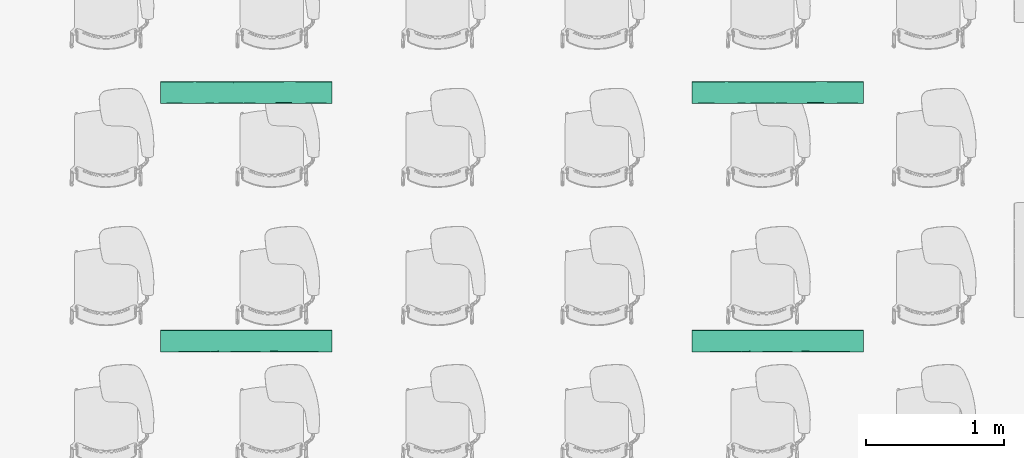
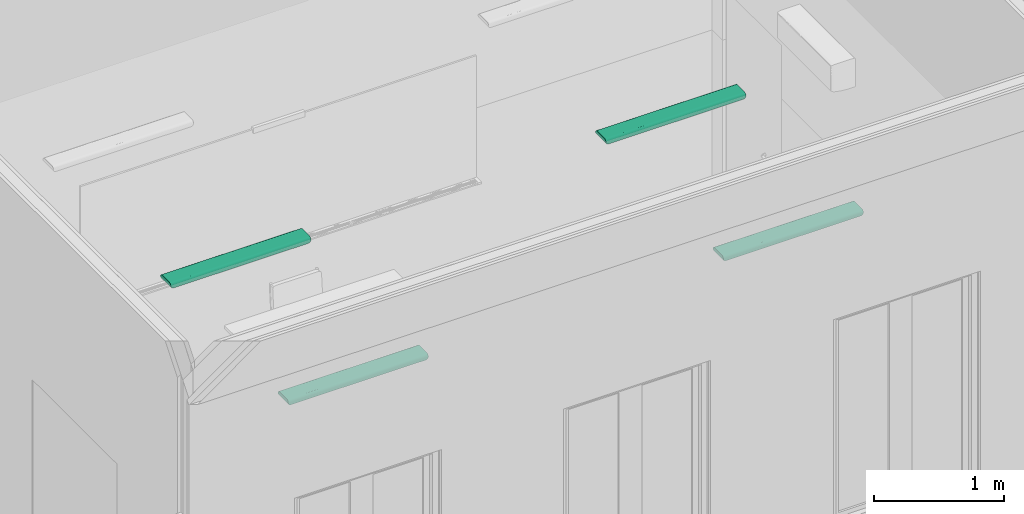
# One storey, part 51 of 155: 4 flow terminals.
"""IFC2X3 building model written with IfcOpenShell, lengths in metres."""

import ifcopenshell
import ifcopenshell.guid

model = None  # the IFC model being written
_history = None  # IfcOwnerHistory: only IFC2X3 demands one
_inside = {}  # id of a spatial element -> (the spatial element, [elements in it])
_under = {}  # id of a project, library or spatial element -> (it, [spatial elements below it])
_declared = {}  # id of a project -> (the project, [libraries it declares])
_typed = {}  # id of a type object -> (the type object, [elements of that type])
_made_of = {}  # id of a material, layer set ... -> (it, [elements and type objects made of it])


def new_model(schema):
    """Start an empty IFC model of exactly this schema.

    Asked for "IFC4X3", IfcOpenShell would pick the latest addendum, in which some entities
    have other attributes; the version numbers below select the first issue.
    IFC2X3 requires an IfcOwnerHistory on every rooted entity: one is made here for all.
    """
    global model, _history
    if schema == "IFC4X3":
        model = ifcopenshell.file(schema_version=(4, 3, 0, 0))
    else:
        model = ifcopenshell.file(schema=schema)
    _inside.clear()
    _under.clear()
    _declared.clear()
    _typed.clear()
    _made_of.clear()
    _history = None
    if model.schema == "IFC2X3":
        org = make("IfcOrganization", Name="unknown")
        user = make(
            "IfcPersonAndOrganization",
            ThePerson=make("IfcPerson", FamilyName="unknown"),
            TheOrganization=org,
        )
        app = make(
            "IfcApplication",
            ApplicationDeveloper=org,
            Version="unknown",
            ApplicationFullName="unknown",
            ApplicationIdentifier="unknown",
        )
        _history = make(
            "IfcOwnerHistory",
            OwningUser=user,
            OwningApplication=app,
            ChangeAction="ADDED",
            CreationDate=0,
        )
    return model


def make(cls, **values):
    """One entity of the class cls with the attributes given. An attribute that is None is left unset."""
    return model.create_entity(
        cls, **{name: value for name, value in values.items() if value is not None}
    )


def entity(cls, *values):
    """Any entity or typed value of the class cls, its attributes in the order of the schema. None: left unset."""
    e = model.create_entity(cls)
    for i, value in enumerate(values):
        if value is not None:
            e[i] = value
    return e


def rooted(cls, **values):
    """An entity with a GlobalId (a new one), such as an element, a storey or a relation."""
    return make(cls, GlobalId=ifcopenshell.guid.new(), OwnerHistory=_history, **values)


def si_unit(unit_type, name, prefix=None):
    """IfcSIUnit, for example si_unit("LENGTHUNIT", "METRE", prefix="MILLI")."""
    return make("IfcSIUnit", UnitType=unit_type, Prefix=prefix, Name=name)


def converted_unit(unit_type, name, factor, base, dimensions=None, offset=None):
    """IfcConversionBasedUnit, such as the inch: factor (a typed value) times the base unit."""
    return make(
        "IfcConversionBasedUnit"
        if offset is None
        else "IfcConversionBasedUnitWithOffset",
        ConversionOffset=offset,
        Dimensions=None
        if dimensions is None
        else entity("IfcDimensionalExponents", *dimensions),
        UnitType=unit_type,
        Name=name,
        ConversionFactor=make(
            "IfcMeasureWithUnit", ValueComponent=factor, UnitComponent=base
        ),
    )


def derived_unit(unit_type, elements):
    """IfcDerivedUnit: a product of units, each with its exponent."""
    return make(
        "IfcDerivedUnit",
        Elements=[
            make("IfcDerivedUnitElement", Unit=unit, Exponent=power)
            for unit, power in elements
        ],
        UnitType=unit_type,
    )


def assignment(units):
    """IfcUnitAssignment: the units of a project."""
    return None if units is None else make("IfcUnitAssignment", Units=units)


def point(xyz):
    """IfcCartesianPoint."""
    return None if xyz is None else make("IfcCartesianPoint", Coordinates=xyz)


def direction(xyz):
    """IfcDirection."""
    return None if xyz is None else make("IfcDirection", DirectionRatios=xyz)


def frame(location, z_axis=None, x_axis=None):
    """IfcAxis2Placement3D, a coordinate frame: its origin and axes. An axis left out is left unset."""
    return make(
        "IfcAxis2Placement3D",
        Location=point(location),
        Axis=direction(z_axis),
        RefDirection=direction(x_axis),
    )


def origin():
    """The frame at (0, 0, 0) with its axes left unset."""
    return frame((0.0, 0.0, 0.0))


def place(relative_to, where):
    """IfcLocalPlacement: puts the frame where relative to a parent placement (None: the world)."""
    return make(
        "IfcLocalPlacement", PlacementRelTo=relative_to, RelativePlacement=where
    )


def context(
    kind, dimensions, precision=None, world=None, true_north=None, identifier=None
):
    """IfcGeometricRepresentationContext, for example the 3D "Model" context."""
    return make(
        "IfcGeometricRepresentationContext",
        ContextIdentifier=identifier,
        ContextType=kind,
        CoordinateSpaceDimension=dimensions,
        Precision=precision,
        WorldCoordinateSystem=world,
        TrueNorth=true_north,
    )


def subcontext(parent, identifier, kind, view, scale=None):
    """IfcGeometricRepresentationSubContext, for example "Body" below "Model"."""
    return make(
        "IfcGeometricRepresentationSubContext",
        ContextIdentifier=identifier,
        ContextType=kind,
        ParentContext=parent,
        TargetScale=scale,
        TargetView=view,
    )


def project(units=None, contexts=None):
    """IfcProject with its units and contexts."""
    return rooted(
        "IfcProject",
        Name="project",
        RepresentationContexts=contexts,
        UnitsInContext=assignment(units),
    )


def spatial(cls, under=None, at=None, **own):
    """A site, building, storey or space (cls), placed at a placement, below another one or the project."""
    s = rooted(cls, ObjectPlacement=at, **own)
    if under is not None:
        _under.setdefault(under.id(), (under, []))[1].append(s)
    return s


def faces_of(points, faces, orient=None, outer=None):
    """IfcFace entities. A face is a list of loops; a loop is a list of indices into points, from 0.

    orient and outer hold one flag for each loop. By default every Orientation is true, the
    first loop of a face is its IfcFaceOuterBound and the others are IfcFaceBound.
    """
    made = []
    for i, loops in enumerate(faces):
        bounds = []
        for j, loop in enumerate(loops):
            is_outer = j == 0 if outer is None else outer[i][j]
            bounds.append(
                make(
                    "IfcFaceOuterBound" if is_outer else "IfcFaceBound",
                    Bound=make("IfcPolyLoop", Polygon=[points[k] for k in loop]),
                    Orientation=True if orient is None else orient[i][j],
                )
            )
        made.append(make("IfcFace", Bounds=bounds))
    return made


def faceted_brep(points, faces, orient=None, outer=None, voids=None):
    """IfcFacetedBrep: a solid bounded by flat faces; with voids (closed shells), ...WithVoids."""
    shared = [point(p) for p in points]
    hull = make("IfcClosedShell", CfsFaces=faces_of(shared, faces, orient, outer))
    if voids is None:
        return make("IfcFacetedBrep", Outer=hull)
    return make(
        "IfcFacetedBrepWithVoids",
        Outer=hull,
        Voids=[
            make(cls, CfsFaces=faces_of(shared, fs, o, b)) for cls, fs, o, b in voids
        ],
    )


def shape(context_of_items, identifier, shape_type, items):
    """IfcShapeRepresentation: the items that make up one representation, for example the "Body"."""
    return make(
        "IfcShapeRepresentation",
        ContextOfItems=context_of_items,
        RepresentationIdentifier=identifier,
        RepresentationType=shape_type,
        Items=items,
    )


def source(mapping_origin, context_of_items, identifier, shape_type, items):
    """IfcRepresentationMap: a shape defined once, which mapped items show again and again."""
    return make(
        "IfcRepresentationMap",
        MappingOrigin=mapping_origin,
        MappedRepresentation=shape(context_of_items, identifier, shape_type, items),
    )


def transform(
    local_origin,
    x_axis=None,
    y_axis=None,
    z_axis=None,
    scale=None,
    scale2=None,
    scale3=None,
    uniform=True,
):
    """IfcCartesianTransformationOperator3D, or its non-uniform kind. x_axis, y_axis, z_axis: its Axis1, 2, 3."""
    if uniform:
        return make(
            "IfcCartesianTransformationOperator3D",
            Axis1=direction(x_axis),
            Axis2=direction(y_axis),
            LocalOrigin=point(local_origin),
            Scale=scale,
            Axis3=direction(z_axis),
        )
    return make(
        "IfcCartesianTransformationOperator3DnonUniform",
        Axis1=direction(x_axis),
        Axis2=direction(y_axis),
        LocalOrigin=point(local_origin),
        Scale=scale,
        Axis3=direction(z_axis),
        Scale2=scale2,
        Scale3=scale3,
    )


def mapped(mapping_source, mapping_target):
    """IfcMappedItem: shows the shape of a source again, moved by a transform."""
    return make(
        "IfcMappedItem", MappingSource=mapping_source, MappingTarget=mapping_target
    )


def material(Name=None, Category=None):
    """IfcMaterial."""
    return make("IfcMaterial", Name=Name, Category=Category)


def material_list(materials):
    """IfcMaterialList."""
    return make("IfcMaterialList", Materials=materials)


def made_of(thing, what):
    """Note that an element or type object is made of a material, layer set ...; save() writes the relation."""
    if what is not None:
        _made_of.setdefault(what.id(), (what, []))[1].append(thing)
    return thing


def type_object(cls, material=None, **own):
    """A type object (cls), such as IfcWallType, which elements share."""
    return made_of(rooted(cls, **own), material)


def type_shapes(of_type, sources):
    """Give a type object the sources (RepresentationMaps) that its elements show as mapped items."""
    of_type.RepresentationMaps = sources


def element(
    cls,
    number,
    at=None,
    inside=None,
    cuts=None,
    type_object=None,
    material=None,
    context=None,
    identifier="Body",
    shape_type=None,
    held_by="IfcProductDefinitionShape",
    body=None,
    shapes=None,
    **own,
):
    """One element of the class cls, such as IfcWall. Its Tag is "e" and its number.

    at: its placement. inside: the storey or other place that contains it. cuts: it is an
    opening in that element (IfcRelVoidsElement). A single representation is given by context,
    identifier, shape_type and body (its items); several are given by shapes. held_by: the class
    of the entity that holds the representations. save() writes the other relations.
    """
    e = rooted(cls, Tag="e%d" % number, ObjectPlacement=at, **own)
    if body is not None:
        shapes = [shape(context, identifier, shape_type, body)]
    if shapes is not None:
        e.Representation = make(held_by, Representations=shapes)
    if inside is not None:
        _inside.setdefault(inside.id(), (inside, []))[1].append(e)
    if cuts is not None:
        rooted(
            "IfcRelVoidsElement", RelatingBuildingElement=cuts, RelatedOpeningElement=e
        )
    if type_object is not None:
        _typed.setdefault(type_object.id(), (type_object, []))[1].append(e)
    return made_of(e, material)


def aggregate(whole, parts):
    """IfcRelAggregates: a whole, such as a stair, and the parts it consists of."""
    return rooted("IfcRelAggregates", RelatingObject=whole, RelatedObjects=parts)


def save(model, path):
    """Write the relations noted so far, then the file.

    IfcRelAggregates (storeys below a building ...), IfcRelContainedInSpatialStructure (elements
    in a storey), IfcRelDefinesByType, IfcRelAssociatesMaterial and IfcRelDeclares: one each for
    every whole, place, type object, material and project.
    """
    for whole, parts in _under.values():
        aggregate(whole, parts)
    for where, things in _inside.values():
        rooted(
            "IfcRelContainedInSpatialStructure",
            RelatedElements=things,
            RelatingStructure=where,
        )
    for kind, things in _typed.values():
        rooted("IfcRelDefinesByType", RelatedObjects=things, RelatingType=kind)
    for what, things in _made_of.values():
        rooted("IfcRelAssociatesMaterial", RelatedObjects=things, RelatingMaterial=what)
    for by, libraries in _declared.values():
        rooted("IfcRelDeclares", RelatingContext=by, RelatedDefinitions=libraries)
    model.write(path)


model = new_model("IFC2X3")

# Units and contexts
model_context = context("Model", 3, precision=1e-05, world=origin(), true_north=direction((6.12303176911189e-17, 1.0)))
body_context = subcontext(model_context, "Body", "Model", "MODEL_VIEW")
ifc_project = project(units=[si_unit("LENGTHUNIT", "METRE"), si_unit("AREAUNIT", "SQUARE_METRE"), si_unit("VOLUMEUNIT", "CUBIC_METRE"), converted_unit("PLANEANGLEUNIT", "DEGREE", entity("IfcRatioMeasure", 0.0174532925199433), si_unit("PLANEANGLEUNIT", "RADIAN"), dimensions=[0, 0, 0, 0, 0, 0, 0]), si_unit("MASSUNIT", "GRAM", prefix="KILO"), derived_unit("MASSDENSITYUNIT", [(si_unit("MASSUNIT", "GRAM", prefix="KILO"), 1), (si_unit("LENGTHUNIT", "METRE"), -3)]), si_unit("TIMEUNIT", "SECOND"), si_unit("FREQUENCYUNIT", "HERTZ"), si_unit("THERMODYNAMICTEMPERATUREUNIT", "DEGREE_CELSIUS"), derived_unit("THERMALTRANSMITTANCEUNIT", [(si_unit("MASSUNIT", "GRAM", prefix="KILO"), 1), (si_unit("THERMODYNAMICTEMPERATUREUNIT", "KELVIN"), -1), (si_unit("TIMEUNIT", "SECOND"), -3)]), derived_unit("VOLUMETRICFLOWRATEUNIT", [(si_unit("LENGTHUNIT", "METRE"), 3), (si_unit("TIMEUNIT", "SECOND"), -1)]), si_unit("ELECTRICCURRENTUNIT", "AMPERE"), si_unit("ELECTRICVOLTAGEUNIT", "VOLT"), si_unit("POWERUNIT", "WATT"), si_unit("FORCEUNIT", "NEWTON", prefix="KILO"), si_unit("ILLUMINANCEUNIT", "LUX"), si_unit("LUMINOUSFLUXUNIT", "LUMEN"), si_unit("LUMINOUSINTENSITYUNIT", "CANDELA"), derived_unit("USERDEFINED", [(si_unit("MASSUNIT", "GRAM", prefix="KILO"), -1), (si_unit("LENGTHUNIT", "METRE"), -2), (si_unit("TIMEUNIT", "SECOND"), 3), (si_unit("LUMINOUSFLUXUNIT", "LUMEN"), 1)]), derived_unit("LINEARVELOCITYUNIT", [(si_unit("LENGTHUNIT", "METRE"), 1), (si_unit("TIMEUNIT", "SECOND"), -1)]), si_unit("PRESSUREUNIT", "PASCAL"), derived_unit("USERDEFINED", [(si_unit("LENGTHUNIT", "METRE"), -2), (si_unit("MASSUNIT", "GRAM", prefix="KILO"), 1), (si_unit("TIMEUNIT", "SECOND"), -2)])], contexts=[model_context])

# Site, building, storey, space
site_placement = place(None, frame((26.9889013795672, -17.5624287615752, 0.0)))
site = spatial("IfcSite", under=ifc_project, at=site_placement, Name="Default", CompositionType="ELEMENT")
building_placement = place(site_placement, origin())
building = spatial("IfcBuilding", under=site, at=building_placement, Name="C. C. L. Monsenhor Antônio Sampaio", CompositionType="ELEMENT")
storey_placement = place(building_placement, frame((0.0, 0.0, 1.19999999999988)))
storey = spatial("IfcBuildingStorey", under=building, at=storey_placement, Name="Nível 1.2", CompositionType="ELEMENT", Elevation=1.19999999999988)
space_placement = place(storey_placement, origin())
space = spatial("IfcSpace", under=storey, at=space_placement, Name="80", CompositionType="ELEMENT", InteriorOrExteriorSpace="INTERNAL")

# Flow terminals
ifc_material_1 = material(Name="glass - blue - t85")
ifc_material_2 = material(Name="metal - aluminium")
ifc_material_list_1 = material_list([ifc_material_1, ifc_material_2])
ifc_material_list_2 = material_list([ifc_material_1, ifc_material_2])
light_fixture_type = type_object("IfcLightFixtureType", Name="BCS460 W16L124 1xLED24/840 MLO-PC", PredefinedType="NOTDEFINED", material=ifc_material_list_2)
shared_shape = source(origin(), body_context, "Body", "Brep", [
    faceted_brep([(0.585000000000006, 0.0435000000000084, -0.0460000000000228), (0.585000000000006, -0.0434999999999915, -0.0460000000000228), (0.585000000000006, -0.0434999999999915, -0.0490000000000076), (0.585000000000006, 0.0435000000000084, -0.0490000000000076), (-0.584999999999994, 0.0435000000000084, -0.0460000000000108), (-0.584999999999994, 0.0435000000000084, -0.0489999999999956), (-0.584999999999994, -0.0434999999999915, -0.0489999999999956), (-0.584999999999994, -0.0434999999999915, -0.0460000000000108)], [[[0, 1, 2, 3]], [[4, 5, 6, 7]], [[3, 5, 4, 0]], [[2, 6, 5, 3]], [[1, 7, 6, 2]], [[0, 4, 7, 1]]]),
    faceted_brep([(-0.584999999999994, -0.0434999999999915, -0.0489999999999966), (0.585000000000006, -0.0434999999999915, -0.0490000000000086), (0.585000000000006, -0.0554999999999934, -0.0490000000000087), (0.417543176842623, -0.0554999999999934, -0.0490000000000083), (0.334912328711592, -0.0554999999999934, -0.0490000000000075), (0.209867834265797, -0.0554999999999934, -0.0490000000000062), (0.0848246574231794, -0.0554999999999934, -0.0490000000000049), (-0.0826321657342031, -0.0554999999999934, -0.0490000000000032), (-0.250087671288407, -0.0554999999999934, -0.0490000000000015), (-0.417543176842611, -0.0554999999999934, -0.0489999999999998), (-0.584999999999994, -0.0554999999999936, -0.0489999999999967), (-0.584999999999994, 0.0435000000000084, -0.0489999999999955), (-0.584999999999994, 0.0555000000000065, -0.0489999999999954), (-0.417543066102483, 0.0555000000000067, -0.0489999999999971), (-0.334913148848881, 0.0555000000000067, -0.048999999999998), (-0.209868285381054, 0.0555000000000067, -0.0489999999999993), (-0.0848248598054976, 0.0555000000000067, -0.0490000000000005), (0.0826306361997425, 0.0555000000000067, -0.0490000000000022), (0.250087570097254, 0.0555000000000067, -0.049000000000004), (0.417544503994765, 0.0555000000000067, -0.0490000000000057), (0.585000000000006, 0.0555000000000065, -0.0490000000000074), (0.585000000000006, 0.0435000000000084, -0.0490000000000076), (0.585000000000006, -0.0434999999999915, -0.0190000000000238), (0.585000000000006, 0.0435000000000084, -0.0190000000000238), (0.585000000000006, 0.0614528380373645, -0.0482162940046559), (0.585000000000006, 0.0670000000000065, -0.0459185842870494), (0.585000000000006, 0.0717634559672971, -0.0422634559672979), (0.585000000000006, 0.0754185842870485, -0.0375000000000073), (0.585000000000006, 0.077716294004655, -0.0319528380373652), (0.585000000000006, 0.0785000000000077, -0.0260000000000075), (0.585000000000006, 0.0785000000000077, 0.0), (0.585000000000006, -0.0784999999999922, 0.0), (0.585000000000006, -0.0784999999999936, -0.02600000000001), (0.585000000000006, -0.0777162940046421, -0.031952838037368), (0.585000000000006, -0.0754185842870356, -0.03750000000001), (0.585000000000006, -0.0717634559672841, -0.0422634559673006), (0.585000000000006, -0.0669999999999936, -0.0459185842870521), (0.585000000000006, -0.0614528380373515, -0.0482162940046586), (-0.584999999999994, 0.0435000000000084, -0.0190000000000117), (-0.584999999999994, -0.0434999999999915, -0.0190000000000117), (-0.584999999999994, -0.0614528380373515, -0.0482162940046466), (-0.584999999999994, -0.0669999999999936, -0.0459185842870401), (-0.584999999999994, -0.0717634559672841, -0.0422634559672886), (-0.584999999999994, -0.0754185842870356, -0.037499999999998), (-0.584999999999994, -0.0777162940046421, -0.031952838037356), (-0.584999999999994, -0.0784999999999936, -0.025999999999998), (-0.584999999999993, -0.0784999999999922, 0.0), (-0.584999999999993, 0.0785000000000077, 0.0), (-0.584999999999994, 0.0785000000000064, -0.0259999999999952), (-0.584999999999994, 0.077716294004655, -0.0319528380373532), (-0.584999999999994, 0.0754185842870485, -0.0374999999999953), (-0.584999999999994, 0.0717634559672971, -0.0422634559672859), (-0.584999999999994, 0.0670000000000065, -0.0459185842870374), (-0.584999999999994, 0.0614528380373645, -0.0482162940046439), (0.417543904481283, 0.0785000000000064, -0.0260000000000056), (0.334912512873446, 0.0785000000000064, -0.0260000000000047), (0.209868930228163, 0.0785000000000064, -0.0260000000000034), (0.0848250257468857, 0.0785000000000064, -0.0260000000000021), (-0.0826310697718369, 0.0785000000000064, -0.0260000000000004), (-0.250087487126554, 0.0785000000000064, -0.0259999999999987), (-0.417543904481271, 0.0785000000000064, -0.025999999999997), (-0.430283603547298, 0.073747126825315, -0.0400015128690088), (-0.39346878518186, 0.069501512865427, -0.0442471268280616), (-0.441987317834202, 0.0643017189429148, -0.0472492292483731), (-0.435801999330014, 0.0759760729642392, -0.0364752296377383), (0.43028360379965, 0.0695015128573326, -0.0442471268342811), (0.393468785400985, 0.0737471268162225, -0.0400015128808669), (-0.166359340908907, 0.0777768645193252, -0.0317220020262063), (-0.333815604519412, 0.078144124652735, -0.0300303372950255), (0.441987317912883, 0.0767492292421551, -0.0348017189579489), (0.376228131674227, 0.0780233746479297, -0.0306580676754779), (-0.0103058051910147, 0.0779837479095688, -0.0308457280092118), (0.147346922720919, 0.0778835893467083, -0.0312891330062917), (0.0846877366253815, 0.0752228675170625, -0.0378325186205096), (0.113930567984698, 0.0669406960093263, -0.0459527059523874), (0.259392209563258, 0.0628104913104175, -0.0478072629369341), (0.138751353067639, 0.0626656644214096, -0.0478552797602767), (-0.327642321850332, 0.0767492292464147, -0.0348017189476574), (-0.44845841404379, 0.0775260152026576, -0.0326222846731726), (0.274715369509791, 0.0767492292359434, -0.0348017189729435), (0.37104983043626, 0.0643017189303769, -0.0472492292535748), (0.333815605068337, 0.0596187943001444, -0.0486282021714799), (0.0893720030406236, 0.0707479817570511, -0.0432191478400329), (-0.0153938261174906, 0.0683034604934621, -0.0451068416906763), (-0.376228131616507, 0.0601580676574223, -0.0485233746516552), (0.0434325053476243, 0.059742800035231, -0.048605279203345), (0.218757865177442, 0.0695015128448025, -0.0442471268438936), (0.464656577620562, 0.0597129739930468, -0.0486108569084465), (0.199843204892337, 0.0732493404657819, -0.0406274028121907), (-0.274715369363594, 0.0643017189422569, -0.0472492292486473), (-0.115235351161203, 0.073747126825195, -0.0400015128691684), (-0.150791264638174, 0.070206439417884, -0.0436839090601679), (-0.272759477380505, 0.0724713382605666, -0.0415233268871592), (-0.00814072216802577, 0.0636892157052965, -0.0474927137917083), (-0.14734692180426, 0.0607891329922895, -0.0483835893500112), (-0.269938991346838, 0.0692956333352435, -0.0444032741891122), (-0.201904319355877, 0.0758204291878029, -0.0367740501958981), (-0.0663340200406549, 0.0763921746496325, -0.0356185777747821), (-0.139314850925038, 0.066006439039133, -0.046460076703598), (-0.430283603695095, -0.0695015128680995, -0.0442471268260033), (-0.393468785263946, -0.073747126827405, -0.0400015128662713), (-0.44198731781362, -0.0767492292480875, -0.0348017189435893), (-0.435801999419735, -0.06597522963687, -0.0464760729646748), (0.430283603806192, -0.0737471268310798, -0.0400015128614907), (0.393468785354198, -0.0695015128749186, -0.0442471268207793), (-0.166359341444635, -0.061222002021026, -0.0482768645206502), (-0.333815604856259, -0.0595303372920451, -0.0486441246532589), (0.441987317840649, -0.0643017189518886, -0.0472492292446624), (0.37622813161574, -0.0601580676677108, -0.0485233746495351), (-0.0103058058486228, -0.0603457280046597, -0.0484837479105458), (0.147346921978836, -0.0607891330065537, -0.0483835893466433), (0.0846877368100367, -0.0673325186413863, -0.0457228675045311), (0.113930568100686, -0.0754527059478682, -0.0374406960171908), (0.259392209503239, -0.0773072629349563, -0.0333104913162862), (0.138751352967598, -0.0773552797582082, -0.0331656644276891), (-0.327642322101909, -0.0643017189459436, -0.047249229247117), (-0.448458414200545, -0.062122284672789, -0.048026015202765), (-0.417543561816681, -0.0784999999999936, -0.0259999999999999), (0.274715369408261, -0.0643017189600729, -0.0472492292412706), (0.371049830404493, -0.0767492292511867, -0.0348017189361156), (0.333815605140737, -0.0781282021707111, -0.0301187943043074), (0.250087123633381, -0.0784999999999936, -0.0260000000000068), (0.0893720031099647, -0.0727191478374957, -0.041247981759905), (-0.0153938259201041, -0.074606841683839, -0.0388034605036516), (-0.376228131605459, -0.0780233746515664, -0.0306580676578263), (0.0826306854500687, -0.0784999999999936, -0.026000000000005), (-0.0848257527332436, -0.0784999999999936, -0.0260000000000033), (0.0434325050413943, -0.0781052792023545, -0.030242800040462), (0.417543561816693, -0.0784999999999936, -0.0260000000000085), (0.21875786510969, -0.0737471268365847, -0.0400015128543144), (0.464656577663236, -0.0781108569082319, -0.0302129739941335), (0.19984320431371, -0.0701274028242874, -0.0437493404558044), (-0.274715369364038, -0.0767492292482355, -0.0348017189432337), (-0.115235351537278, -0.0695015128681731, -0.0442471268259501), (-0.150791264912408, -0.0731839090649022, -0.0407064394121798), (-0.209869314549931, -0.0784999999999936, -0.026000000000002), (-0.334912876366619, -0.0784999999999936, -0.0260000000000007), (-0.272759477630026, -0.071023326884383, -0.0429713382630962), (-0.00814072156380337, -0.0769927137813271, -0.0341892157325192), (-0.147346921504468, -0.0778835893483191, -0.03128913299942), (-0.269938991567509, -0.0739032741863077, -0.0397956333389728), (-0.201904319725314, -0.0662740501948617, -0.0463204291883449), (-0.0663340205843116, -0.0651185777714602, -0.0468921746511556), (-0.139314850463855, -0.0759600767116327, -0.0365064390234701)], [[[0, 1, 2, 3, 4, 5, 6, 7, 8, 9, 10]], [[11, 12, 13, 14, 15, 16, 17, 18, 19, 20, 21]], [[22, 23, 21, 20, 24, 25, 26, 27, 28, 29, 30, 31, 32, 33, 34, 35, 36, 37, 2, 1]], [[12, 11, 38, 39, 0, 10, 40, 41, 42, 43, 44, 45, 46, 47, 48, 49, 50, 51, 52, 53]], [[47, 30, 29, 54, 55, 56, 57, 58, 59, 60, 48]], [[61, 51, 50]], [[62, 51, 61]], [[51, 62, 52]], [[62, 63, 52]], [[63, 53, 52]], [[61, 50, 64]], [[26, 65, 66]], [[26, 25, 65]], [[54, 29, 28]], [[67, 68, 59]], [[69, 70, 28]], [[71, 72, 73]], [[74, 75, 76]], [[26, 66, 27]], [[77, 78, 68]], [[13, 12, 53]], [[69, 27, 66]], [[79, 73, 72]], [[24, 80, 25]], [[70, 79, 72]], [[69, 28, 27]], [[75, 81, 18]], [[82, 74, 83]], [[63, 84, 53]], [[17, 16, 85]], [[19, 18, 81]], [[75, 74, 86]], [[87, 81, 80]], [[73, 79, 88]], [[70, 56, 55, 54]], [[80, 86, 65]], [[89, 63, 62]], [[90, 83, 91]], [[84, 15, 14, 13]], [[61, 77, 92]], [[59, 68, 60]], [[78, 49, 48]], [[20, 87, 24]], [[93, 76, 85]], [[66, 65, 86]], [[65, 25, 80]], [[62, 61, 92]], [[77, 64, 78]], [[92, 90, 91]], [[89, 94, 84]], [[28, 70, 54]], [[79, 69, 66]], [[53, 84, 13]], [[91, 95, 92]], [[96, 90, 92]], [[56, 72, 57]], [[70, 69, 79]], [[70, 72, 56]], [[67, 59, 58]], [[71, 67, 58]], [[71, 58, 57]], [[83, 90, 82]], [[88, 82, 73]], [[96, 97, 90]], [[71, 73, 97]], [[15, 94, 16]], [[84, 63, 89]], [[84, 94, 15]], [[98, 83, 93]], [[83, 98, 91]], [[18, 17, 76]], [[62, 92, 95]], [[98, 95, 91]], [[98, 94, 89]], [[74, 76, 93]], [[93, 94, 98]], [[85, 16, 94]], [[19, 81, 87]], [[80, 81, 75]], [[19, 87, 20]], [[24, 87, 80]], [[78, 48, 60]], [[77, 68, 67]], [[68, 78, 60]], [[49, 78, 50]], [[78, 64, 50]], [[64, 77, 61]], [[94, 93, 85]], [[85, 76, 17]], [[97, 67, 71]], [[72, 71, 57]], [[77, 67, 96]], [[90, 97, 73]], [[97, 96, 67]], [[77, 96, 92]], [[80, 75, 86]], [[76, 75, 18]], [[95, 89, 62]], [[89, 95, 98]], [[86, 74, 82]], [[83, 74, 93]], [[86, 82, 88]], [[73, 82, 90]], [[88, 66, 86]], [[66, 88, 79]], [[99, 42, 41]], [[100, 42, 99]], [[42, 100, 43]], [[100, 101, 43]], [[101, 44, 43]], [[99, 41, 102]], [[35, 103, 104]], [[35, 34, 103]], [[3, 2, 37]], [[105, 106, 8]], [[107, 108, 37]], [[109, 110, 111]], [[112, 113, 114]], [[35, 104, 36]], [[115, 116, 106]], [[117, 45, 44]], [[107, 36, 104]], [[118, 111, 110]], [[33, 119, 34]], [[108, 118, 110]], [[107, 37, 36]], [[113, 120, 121]], [[122, 112, 123]], [[101, 124, 44]], [[125, 126, 127]], [[128, 121, 120]], [[113, 112, 129]], [[130, 120, 119]], [[111, 118, 131]], [[108, 5, 4, 3]], [[119, 129, 103]], [[132, 101, 100]], [[133, 123, 134]], [[124, 135, 136, 117]], [[99, 115, 137]], [[8, 106, 9]], [[116, 40, 10]], [[32, 130, 33]], [[138, 114, 127]], [[104, 103, 129]], [[103, 34, 119]], [[100, 99, 137]], [[115, 102, 116]], [[137, 133, 134]], [[132, 139, 124]], [[37, 108, 3]], [[118, 107, 104]], [[44, 124, 117]], [[134, 140, 137]], [[141, 133, 137]], [[5, 110, 6]], [[108, 107, 118]], [[108, 110, 5]], [[105, 8, 7]], [[109, 105, 7]], [[109, 7, 6]], [[123, 133, 122]], [[131, 122, 111]], [[141, 142, 133]], [[109, 111, 142]], [[135, 139, 126]], [[124, 101, 132]], [[124, 139, 135]], [[143, 123, 138]], [[123, 143, 134]], [[121, 125, 114]], [[100, 137, 140]], [[143, 140, 134]], [[143, 139, 132]], [[112, 114, 138]], [[138, 139, 143]], [[127, 126, 139]], [[128, 120, 130]], [[119, 120, 113]], [[128, 130, 32]], [[33, 130, 119]], [[116, 10, 9]], [[115, 106, 105]], [[106, 116, 9]], [[40, 116, 41]], [[116, 102, 41]], [[102, 115, 99]], [[139, 138, 127]], [[127, 114, 125]], [[142, 105, 109]], [[110, 109, 6]], [[115, 105, 141]], [[133, 142, 111]], [[142, 141, 105]], [[115, 141, 137]], [[119, 113, 129]], [[114, 113, 121]], [[140, 132, 100]], [[132, 140, 143]], [[129, 112, 122]], [[123, 112, 138]], [[129, 122, 131]], [[111, 122, 133]], [[131, 104, 129]], [[104, 131, 118]], [[31, 46, 45, 117, 136, 135, 126, 125, 121, 128, 32]], [[46, 31, 30, 47]], [[21, 23, 38, 11]], [[22, 1, 0, 39]], [[23, 22, 39, 38]]]),
    faceted_brep([(0.597000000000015, 0.0785000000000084, 0.0), (0.602952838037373, 0.0785000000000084, -0.000783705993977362), (0.608500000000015, 0.0785000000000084, -0.00308141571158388), (0.613263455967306, 0.0785000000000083, -0.00673654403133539), (0.616918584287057, 0.0785000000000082, -0.011499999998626), (0.619216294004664, 0.0785000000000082, -0.017047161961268), (0.620000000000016, 0.0785000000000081, -0.0229999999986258), (0.620000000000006, 0.0785000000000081, -0.0259999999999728), (0.585000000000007, 0.0785000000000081, -0.0259999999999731), (0.585000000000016, 0.0785000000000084, 0.0), (0.619216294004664, -0.0784999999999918, -0.0170471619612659), (0.616918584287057, -0.0784999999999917, -0.0114999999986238), (0.613263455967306, -0.0784999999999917, -0.00673654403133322), (0.608500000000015, -0.0784999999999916, -0.00308141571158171), (0.602952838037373, -0.0784999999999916, -0.000783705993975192), (0.597000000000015, -0.0784999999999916, 0.0), (0.585000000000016, -0.0784999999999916, 0.0), (0.585000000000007, -0.0784999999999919, -0.0260000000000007), (0.620000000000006, -0.0784999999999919, -0.0260000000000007), (0.620000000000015, -0.0784999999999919, -0.0229999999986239), (0.620000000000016, 0.0669999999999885, -0.0459185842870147), (0.620000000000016, 0.0717634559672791, -0.0422634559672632), (0.620000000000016, 0.0754185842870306, -0.0374999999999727), (0.620000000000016, 0.0777162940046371, -0.0319528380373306), (0.620000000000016, -0.0777162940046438, -0.0319528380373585), (0.620000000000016, -0.0754185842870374, -0.0375000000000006), (0.620000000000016, -0.071763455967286, -0.0422634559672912), (0.620000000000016, -0.0669999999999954, -0.0459185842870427), (0.620000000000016, -0.0614528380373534, -0.0482162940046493), (0.620000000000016, -0.0554999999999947, -0.0489999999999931), (0.620000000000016, 0.0554999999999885, -0.0489999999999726), (0.620000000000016, 0.0614528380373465, -0.0482162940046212), (0.585000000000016, 0.0554999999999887, -0.048999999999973), (0.585000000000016, -0.0554999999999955, -0.0490000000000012), (0.585000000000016, -0.0614528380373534, -0.0482162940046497), (0.585000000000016, -0.0669999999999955, -0.0459185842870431), (0.585000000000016, -0.071763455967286, -0.0422634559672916), (0.585000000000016, -0.0754185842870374, -0.0375000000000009), (0.585000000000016, -0.0777162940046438, -0.0319528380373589), (0.585000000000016, 0.0777162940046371, -0.031952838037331), (0.585000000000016, 0.0754185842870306, -0.037499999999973), (0.585000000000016, 0.0717634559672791, -0.0422634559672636), (0.585000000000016, 0.0669999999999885, -0.0459185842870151), (0.585000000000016, 0.0614528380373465, -0.0482162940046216)], [[[0, 1, 2, 3, 4, 5, 6, 7, 8, 9]], [[10, 11, 12, 13, 14, 15, 16, 17, 18, 19]], [[20, 21, 22, 23, 7, 6, 19, 18, 24, 25, 26, 27, 28, 29, 30, 31]], [[32, 33, 34, 35, 36, 37, 38, 17, 16, 9, 8, 39, 40, 41, 42, 43]], [[16, 15, 0, 9]], [[11, 10, 5, 4]], [[12, 11, 4, 3]], [[6, 5, 10, 19]], [[14, 13, 2, 1]], [[15, 14, 1, 0]], [[2, 13, 12, 3]], [[43, 31, 30, 32]], [[43, 42, 20, 31]], [[21, 20, 42, 41]], [[23, 22, 40, 39]], [[7, 23, 39, 8]], [[40, 22, 21, 41]], [[29, 33, 32, 30]], [[25, 24, 38, 37]], [[26, 25, 37, 36]], [[17, 38, 24, 18]], [[28, 27, 35, 34]], [[29, 28, 34, 33]], [[35, 27, 26, 36]]]),
    faceted_brep([(-0.608499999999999, 0.0785000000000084, -0.00308141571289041), (-0.602952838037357, 0.0785000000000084, -0.000783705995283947), (-0.597, 0.0785000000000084, 0.0), (-0.584999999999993, 0.0785000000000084, 0.0), (-0.584999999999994, 0.0785000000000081, -0.0260000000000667), (-0.619999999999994, 0.0785000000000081, -0.0260000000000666), (-0.619999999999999, 0.0785000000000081, -0.0229999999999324), (-0.619216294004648, 0.0785000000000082, -0.0170471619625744), (-0.616918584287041, 0.0785000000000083, -0.0114999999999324), (-0.61326345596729, 0.0785000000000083, -0.00673654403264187), (-0.584999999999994, -0.0784999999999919, -0.0260000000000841), (-0.584999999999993, -0.0784999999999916, 0.0), (-0.596999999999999, -0.0784999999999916, 0.0), (-0.602952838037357, -0.0784999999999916, -0.000783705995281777), (-0.608499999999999, -0.0784999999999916, -0.00308141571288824), (-0.61326345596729, -0.0784999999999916, -0.0067365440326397), (-0.616918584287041, -0.0784999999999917, -0.0114999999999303), (-0.619216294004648, -0.0784999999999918, -0.0170471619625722), (-0.619999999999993, -0.0784999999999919, -0.0229999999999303), (-0.619999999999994, -0.0784999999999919, -0.0260000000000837), (-0.619999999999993, 0.0777162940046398, -0.0319528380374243), (-0.619999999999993, 0.0754185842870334, -0.0375000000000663), (-0.619999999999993, 0.071763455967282, -0.042263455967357), (-0.619999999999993, 0.0669999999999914, -0.0459185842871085), (-0.619999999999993, 0.0614528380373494, -0.048216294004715), (-0.619999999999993, 0.0554999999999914, -0.0490000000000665), (-0.619999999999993, -0.0554999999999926, -0.0490000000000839), (-0.619999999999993, -0.0614528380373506, -0.0482162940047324), (-0.619999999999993, -0.0669999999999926, -0.0459185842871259), (-0.619999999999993, -0.0717634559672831, -0.0422634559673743), (-0.619999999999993, -0.0754185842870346, -0.0375000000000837), (-0.619999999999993, -0.0777162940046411, -0.0319528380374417), (-0.584999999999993, 0.0614528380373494, -0.0482162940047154), (-0.584999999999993, 0.0669999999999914, -0.0459185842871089), (-0.584999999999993, 0.071763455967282, -0.0422634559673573), (-0.584999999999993, 0.0754185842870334, -0.0375000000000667), (-0.584999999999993, 0.0777162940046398, -0.0319528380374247), (-0.584999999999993, -0.0777162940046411, -0.0319528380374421), (-0.584999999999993, -0.0754185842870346, -0.0375000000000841), (-0.584999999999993, -0.0717634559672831, -0.0422634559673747), (-0.584999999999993, -0.0669999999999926, -0.0459185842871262), (-0.584999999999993, -0.0614528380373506, -0.0482162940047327), (-0.584999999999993, -0.0554999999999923, -0.0490000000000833), (-0.584999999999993, 0.0554999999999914, -0.0490000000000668)], [[[0, 1, 2, 3, 4, 5, 6, 7, 8, 9]], [[10, 11, 12, 13, 14, 15, 16, 17, 18, 19]], [[5, 20, 21, 22, 23, 24, 25, 26, 27, 28, 29, 30, 31, 19, 18, 6]], [[32, 33, 34, 35, 36, 4, 3, 11, 10, 37, 38, 39, 40, 41, 42, 43]], [[12, 11, 3, 2]], [[14, 13, 1, 0]], [[15, 14, 0, 9]], [[2, 1, 13, 12]], [[17, 16, 8, 7]], [[18, 17, 7, 6]], [[8, 16, 15, 9]], [[22, 21, 35, 34]], [[36, 20, 5, 4]], [[21, 20, 36, 35]], [[24, 23, 33, 32]], [[25, 24, 32, 43]], [[33, 23, 22, 34]], [[26, 25, 43, 42]], [[28, 27, 41, 40]], [[29, 28, 40, 39]], [[42, 41, 27, 26]], [[31, 30, 38, 37]], [[19, 31, 37, 10]], [[38, 30, 29, 39]]]),
])
type_shapes(light_fixture_type, [shared_shape])
flow_terminal_1_placement = place(space_placement, frame((-8.21555229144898, -36.6030663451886, 3.1), z_axis=(0.0, 0.0, -1.0), x_axis=(-1.0, 0.0, 0.0)))
element("IfcFlowTerminal", 1, at=flow_terminal_1_placement, inside=space, type_object=light_fixture_type, material=ifc_material_list_1, Name="63_PHILIPS_smartform-LED-surface_f:BCS460 W16L124 1xLED24/840 MLO-PC", ObjectType="BCS460 W16L124 1xLED24/840 MLO-PC", context=body_context, shape_type="MappedRepresentation", body=[
    mapped(shared_shape, transform((0.0, 0.0, 0.0), scale=1.0)),
])
ifc_material_list_3 = material_list([ifc_material_1, ifc_material_2])
flow_terminal_2_placement = place(space_placement, frame((-8.21555229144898, -38.4030663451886, 3.1), z_axis=(0.0, 0.0, -1.0), x_axis=(-1.0, 0.0, 0.0)))
element("IfcFlowTerminal", 2, at=flow_terminal_2_placement, inside=space, type_object=light_fixture_type, material=ifc_material_list_3, Name="63_PHILIPS_smartform-LED-surface_f:BCS460 W16L124 1xLED24/840 MLO-PC", ObjectType="BCS460 W16L124 1xLED24/840 MLO-PC", context=body_context, shape_type="MappedRepresentation", body=[
    mapped(shared_shape, transform((0.0, 0.0, 0.0), scale=1.0)),
])
ifc_material_list_4 = material_list([ifc_material_1, ifc_material_2])
flow_terminal_3_placement = place(space_placement, frame((-12.0655522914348, -38.4030663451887, 3.1), z_axis=(0.0, 0.0, -1.0), x_axis=(-1.0, 0.0, 0.0)))
element("IfcFlowTerminal", 3, at=flow_terminal_3_placement, inside=space, type_object=light_fixture_type, material=ifc_material_list_4, Name="63_PHILIPS_smartform-LED-surface_f:BCS460 W16L124 1xLED24/840 MLO-PC", ObjectType="BCS460 W16L124 1xLED24/840 MLO-PC", context=body_context, shape_type="MappedRepresentation", body=[
    mapped(shared_shape, transform((0.0, 0.0, 0.0), scale=1.0)),
])
ifc_material_list_5 = material_list([ifc_material_1, ifc_material_2])
flow_terminal_4_placement = place(space_placement, frame((-12.065552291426, -36.6030663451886, 3.1), z_axis=(0.0, 0.0, -1.0), x_axis=(-1.0, 0.0, 0.0)))
element("IfcFlowTerminal", 4, at=flow_terminal_4_placement, inside=space, type_object=light_fixture_type, material=ifc_material_list_5, Name="63_PHILIPS_smartform-LED-surface_f:BCS460 W16L124 1xLED24/840 MLO-PC", ObjectType="BCS460 W16L124 1xLED24/840 MLO-PC", context=body_context, shape_type="MappedRepresentation", body=[
    mapped(shared_shape, transform((0.0, 0.0, 0.0), scale=1.0)),
])

save(model, "model.ifc")
